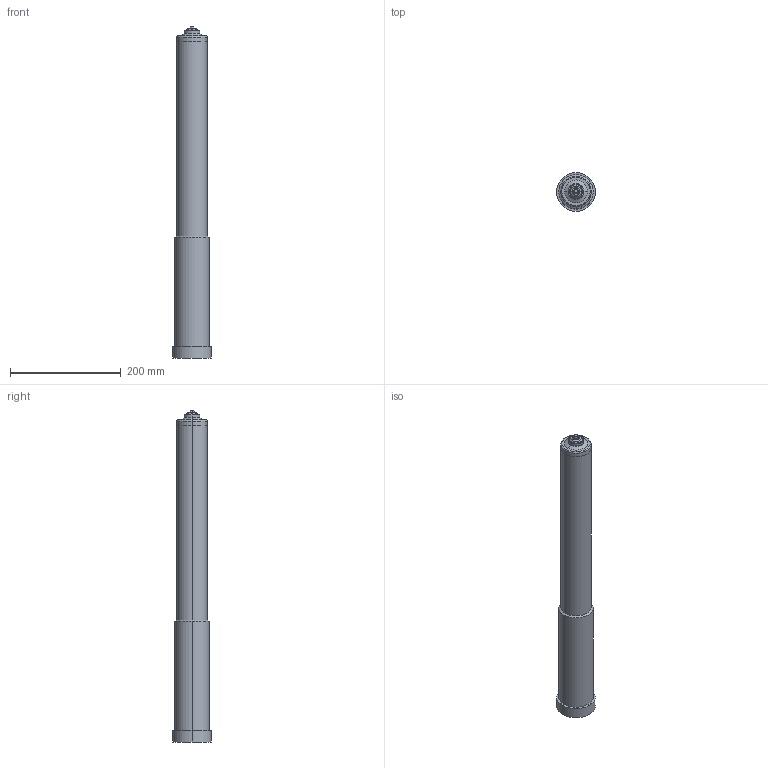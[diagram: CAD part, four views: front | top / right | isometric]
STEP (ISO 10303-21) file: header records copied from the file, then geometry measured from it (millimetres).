
FILE_DESCRIPTION (( 'STEP AP214' ), '1' );
FILE_NAME ('22E-06-600-VTW.STEP', '2022-01-10T08:58:51', ( '' ), ( '' ), 'SwSTEP 2.0', 'SolidWorks 2018', '' );
FILE_SCHEMA (( 'AUTOMOTIVE_DESIGN' ));
Length unit declared in the file: millimetre
Products named in the file (4): 22ta-vtw-##-01_pdasm_22TA-VTW-01 (H6.0)_(22E-06); 22etip_cutout_22NT-VTW-01_60_(22E06); cutout_22E-06-600-VTW; 22E-06-600-VTW
Assembly tree (3 placements, depth 3):
  22E-06-600-VTW
    22ta-vtw-##-01_pdasm_22TA-VTW-01 (H6.0)_(22E-06)
      22etip_cutout_22NT-VTW-01_60_(22E06)
    cutout_22E-06-600-VTW
Bounding box: 70 x 70 x 600 mm (x, y, z)
Volume: 1580892.1 mm3; surface area: 120961.9 mm2
Topology: 2 solids, 2 shells, 61 faces, 118 edges, 68 vertices
Faces by surface type: cone 22, torus 16, cylinder 12, plane 11
Entity records: 1993 total; most frequent: DIRECTION 338, CARTESIAN_POINT 254, ORIENTED_EDGE 236, AXIS2_PLACEMENT_3D 152, EDGE_CURVE 118, CIRCLE 84, VERTEX_POINT 68, EDGE_LOOP 68
